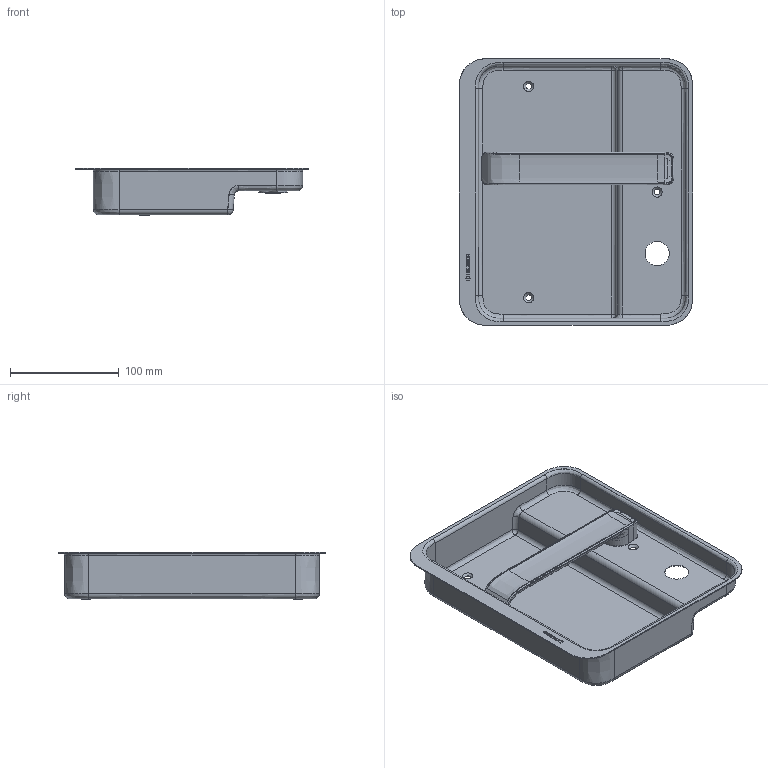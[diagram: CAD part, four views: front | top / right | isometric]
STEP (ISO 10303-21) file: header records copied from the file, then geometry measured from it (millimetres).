
FILE_DESCRIPTION(/* description */ (''),/* implementation_level */ '2;1');
FILE_NAME(/* name */ 'C:\ADSK_DMS_WS\Designs\Vorschläge\Loc Schalen\Muschel Serie 9\S9.42.D3Links\Heusser-Muschel S9.42.D3.278L.stp',/* time_stamp */ '2020-10-13T10:10:31+02:00',/* author */ ('gm'),/* organization */ (''),/* preprocessor_version */ 'ST-DEVELOPER v16.5',/* originating_system */ 'Autodesk Inventor 2017',/* authorisation */ '');
FILE_SCHEMA (('AUTOMOTIVE_DESIGN { 1 0 10303 214 3 1 1 }'));
Length unit declared in the file: millimetre
Products named in the file (1): S9.42.D3.0L
Bounding box: 214 x 245 x 44 mm (x, y, z)
Volume: 114523 mm3; surface area: 177081.7 mm2
Topology: 1 solids, 2 shells, 351 faces, 894 edges, 572 vertices
Faces by surface type: bspline 180, plane 135, cylinder 20, cone 16
Full cylindrical faces by diameter (mm): 1.7 x2, 14.2 x1, 16 x3, 18 x1, 19 x1, 19.1 x1, 22.3 x1, 23 x1, 23.2 x1, 24 x1, 25 x1, 26 x1, 28 x1
Entity records: 21437 total; most frequent: CARTESIAN_POINT 13833, ORIENTED_EDGE 1706, DIRECTION 967, EDGE_CURVE 853, VERTEX_POINT 567, LINE 431, VECTOR 431, EDGE_LOOP 428
